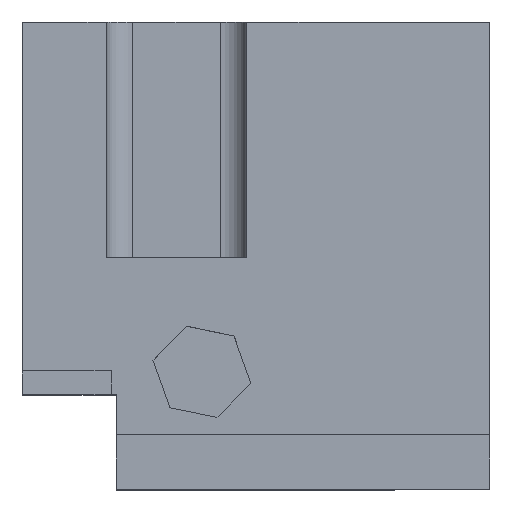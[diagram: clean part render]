
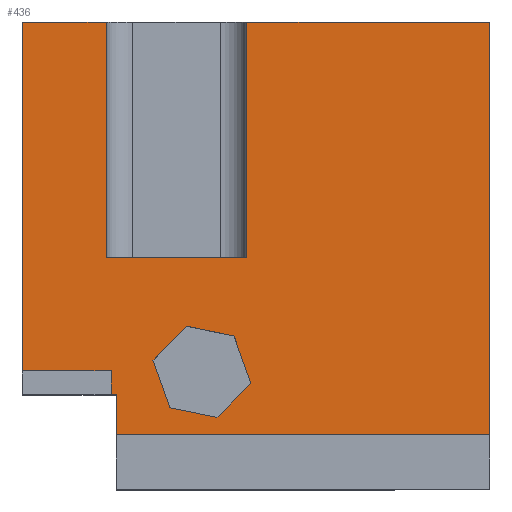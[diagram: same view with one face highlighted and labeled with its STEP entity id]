
A CAD part, top view. The second image highlights one B-rep face of the part: STEP entity #436.
In plain terms, the highlighted planar face has unit normal (0, 0, 1).
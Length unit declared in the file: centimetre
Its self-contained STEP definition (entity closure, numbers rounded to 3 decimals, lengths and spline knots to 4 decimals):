
#9 = CARTESIAN_POINT ( 'NONE',  ( 201.0474, 116.9071, 1000. ) ) ;
#10 = EDGE_CURVE ( 'NONE', #103, #352, #456, .T. ) ;
#48 = CARTESIAN_POINT ( 'NONE',  ( 0., 1000., 1000. ) ) ;
#50 = ORIENTED_EDGE ( 'NONE', *, *, #340, .T. ) ;
#54 = CARTESIAN_POINT ( 'NONE',  ( 352.073, 349.0226, 1000. ) ) ;
#60 = VECTOR ( 'NONE', #1245, 100. ) ;
#66 = CARTESIAN_POINT ( 'NONE',  ( 1000., 116.9071, 1000. ) ) ;
#68 = VERTEX_POINT ( 'NONE', #1150 ) ;
#84 = VECTOR ( 'NONE', #493, 100. ) ;
#88 = CARTESIAN_POINT ( 'NONE',  ( 480.3944, 496.8063, 1000. ) ) ;
#92 = DIRECTION ( 'NONE',  ( -1., 0., 0. ) ) ;
#103 = VERTEX_POINT ( 'NONE', #937 ) ;
#104 = VECTOR ( 'NONE', #407, 100. ) ;
#110 = EDGE_LOOP ( 'NONE', ( #440, #281, #247, #224, #135, #872 ) ) ;
#126 = DIRECTION ( 'NONE',  ( 0., 1., 0. ) ) ;
#127 = VERTEX_POINT ( 'NONE', #913 ) ;
#134 = CARTESIAN_POINT ( 'NONE',  ( 0., 496.8063, 1000. ) ) ;
#135 = ORIENTED_EDGE ( 'NONE', *, *, #381, .F. ) ;
#147 = CARTESIAN_POINT ( 'NONE',  ( 0., 202.8995, 1000. ) ) ;
#171 = AXIS2_PLACEMENT_3D ( 'NONE', #227, #221, #551 ) ;
#187 = CARTESIAN_POINT ( 'NONE',  ( 352.073, 349.0226, 1000. ) ) ;
#192 = VERTEX_POINT ( 'NONE', #285 ) ;
#201 = EDGE_CURVE ( 'NONE', #771, #1223, #1035, .T. ) ;
#202 = EDGE_CURVE ( 'NONE', #226, #103, #374, .T. ) ;
#220 = ORIENTED_EDGE ( 'NONE', *, *, #1423, .F. ) ;
#221 = DIRECTION ( 'NONE',  ( 0., 0., 1. ) ) ;
#224 = ORIENTED_EDGE ( 'NONE', *, *, #912, .F. ) ;
#226 = VERTEX_POINT ( 'NONE', #923 ) ;
#227 = CARTESIAN_POINT ( 'NONE',  ( 0., 0., 1000. ) ) ;
#239 = VERTEX_POINT ( 'NONE', #48 ) ;
#243 = VECTOR ( 'NONE', #580, 100. ) ;
#247 = ORIENTED_EDGE ( 'NONE', *, *, #202, .F. ) ;
#260 = DIRECTION ( 'NONE',  ( 0.979, -0.204, 0. ) ) ;
#277 = LINE ( 'NONE', #945, #587 ) ;
#281 = ORIENTED_EDGE ( 'NONE', *, *, #10, .F. ) ;
#285 = CARTESIAN_POINT ( 'NONE',  ( 0., 253.9919, 1000. ) ) ;
#286 = VECTOR ( 'NONE', #92, 100. ) ;
#293 = LINE ( 'NONE', #187, #1425 ) ;
#296 = ORIENTED_EDGE ( 'NONE', *, *, #1335, .F. ) ;
#299 = CARTESIAN_POINT ( 'NONE',  ( 489.0777, 226.3123, 1000. ) ) ;
#326 = FACE_OUTER_BOUND ( 'NONE', #704, .T. ) ;
#340 = EDGE_CURVE ( 'NONE', #239, #192, #613, .T. ) ;
#352 = VERTEX_POINT ( 'NONE', #828 ) ;
#359 = CARTESIAN_POINT ( 'NONE',  ( 279.4821, 276.4318, 1000. ) ) ;
#360 = EDGE_CURVE ( 'NONE', #1223, #1360, #621, .T. ) ;
#373 = EDGE_CURVE ( 'NONE', #659, #1360, #976, .T. ) ;
#374 = LINE ( 'NONE', #1362, #1181 ) ;
#381 = EDGE_CURVE ( 'NONE', #597, #927, #293, .T. ) ;
#387 = CARTESIAN_POINT ( 'NONE',  ( 0., 253.9919, 1000. ) ) ;
#399 = DIRECTION ( 'NONE',  ( 0., -1., 0. ) ) ;
#400 = VECTOR ( 'NONE', #571, 100. ) ;
#407 = DIRECTION ( 'NONE',  ( 0., -1., 0. ) ) ;
#414 = DIRECTION ( 'NONE',  ( -0.707, -0.707, 0. ) ) ;
#428 = CARTESIAN_POINT ( 'NONE',  ( 179.2842, 496.8063, 1000. ) ) ;
#436 = ADVANCED_FACE ( 'NONE', ( #326, #663 ), #545, .T. ) ;
#440 = ORIENTED_EDGE ( 'NONE', *, *, #1419, .F. ) ;
#445 = ORIENTED_EDGE ( 'NONE', *, *, #373, .F. ) ;
#456 = LINE ( 'NONE', #890, #400 ) ;
#468 = VERTEX_POINT ( 'NONE', #9 ) ;
#469 = DIRECTION ( 'NONE',  ( -1., 0., 0. ) ) ;
#470 = LINE ( 'NONE', #583, #60 ) ;
#487 = CARTESIAN_POINT ( 'NONE',  ( 1000., 1000., 1000. ) ) ;
#493 = DIRECTION ( 'NONE',  ( 0., 1., 0. ) ) ;
#514 = ORIENTED_EDGE ( 'NONE', *, *, #959, .T. ) ;
#519 = DIRECTION ( 'NONE',  ( -1., 0., 0. ) ) ;
#541 = VECTOR ( 'NONE', #1292, 100. ) ;
#545 = PLANE ( 'NONE',  #171 ) ;
#551 = DIRECTION ( 'NONE',  ( 1., 0., 0. ) ) ;
#571 = DIRECTION ( 'NONE',  ( 0.707, 0.707, 0. ) ) ;
#580 = DIRECTION ( 'NONE',  ( 1., 0., 0. ) ) ;
#583 = CARTESIAN_POINT ( 'NONE',  ( 279.4821, 276.4318, 1000. ) ) ;
#587 = VECTOR ( 'NONE', #725, 100. ) ;
#596 = EDGE_CURVE ( 'NONE', #774, #468, #1376, .T. ) ;
#597 = VERTEX_POINT ( 'NONE', #54 ) ;
#603 = LINE ( 'NONE', #387, #1367 ) ;
#613 = LINE ( 'NONE', #1182, #1141 ) ;
#621 = LINE ( 'NONE', #731, #286 ) ;
#637 = ORIENTED_EDGE ( 'NONE', *, *, #596, .T. ) ;
#640 = DIRECTION ( 'NONE',  ( 0., -1., 0. ) ) ;
#651 = CARTESIAN_POINT ( 'NONE',  ( 1000., 1000., 1000. ) ) ;
#659 = VERTEX_POINT ( 'NONE', #88 ) ;
#663 = FACE_BOUND ( 'NONE', #110, .T. ) ;
#704 = EDGE_LOOP ( 'NONE', ( #1107, #1129, #50, #1430, #840, #514, #637, #220, #996, #1053, #445, #296 ) ) ;
#725 = DIRECTION ( 'NONE',  ( -0.979, 0.204, 0. ) ) ;
#731 = CARTESIAN_POINT ( 'NONE',  ( 0., 1000., 1000. ) ) ;
#733 = DIRECTION ( 'NONE',  ( -0.336, 0.942, 0. ) ) ;
#771 = VERTEX_POINT ( 'NONE', #1192 ) ;
#774 = VERTEX_POINT ( 'NONE', #1306 ) ;
#775 = VECTOR ( 'NONE', #733, 100. ) ;
#780 = LINE ( 'NONE', #1240, #838 ) ;
#820 = EDGE_CURVE ( 'NONE', #127, #239, #885, .T. ) ;
#828 = CARTESIAN_POINT ( 'NONE',  ( 489.0777, 226.3123, 1000. ) ) ;
#837 = LINE ( 'NONE', #299, #775 ) ;
#838 = VECTOR ( 'NONE', #126, 100. ) ;
#840 = ORIENTED_EDGE ( 'NONE', *, *, #1297, .F. ) ;
#844 = CARTESIAN_POINT ( 'NONE',  ( 480.3944, 1000., 1000. ) ) ;
#872 = ORIENTED_EDGE ( 'NONE', *, *, #1395, .F. ) ;
#885 = LINE ( 'NONE', #1114, #1254 ) ;
#889 = VECTOR ( 'NONE', #1151, 100. ) ;
#890 = CARTESIAN_POINT ( 'NONE',  ( 416.4868, 153.7214, 1000. ) ) ;
#912 = EDGE_CURVE ( 'NONE', #927, #226, #470, .T. ) ;
#913 = CARTESIAN_POINT ( 'NONE',  ( 179.2842, 1000., 1000. ) ) ;
#923 = CARTESIAN_POINT ( 'NONE',  ( 315.8154, 174.6547, 1000. ) ) ;
#926 = CARTESIAN_POINT ( 'NONE',  ( 201.0474, 0., 1000. ) ) ;
#927 = VERTEX_POINT ( 'NONE', #359 ) ;
#937 = CARTESIAN_POINT ( 'NONE',  ( 416.4868, 153.7214, 1000. ) ) ;
#945 = CARTESIAN_POINT ( 'NONE',  ( 452.7444, 328.0893, 1000. ) ) ;
#959 = EDGE_CURVE ( 'NONE', #1384, #774, #1137, .T. ) ;
#976 = LINE ( 'NONE', #1426, #541 ) ;
#996 = ORIENTED_EDGE ( 'NONE', *, *, #201, .T. ) ;
#1020 = LINE ( 'NONE', #134, #1058 ) ;
#1035 = LINE ( 'NONE', #487, #84 ) ;
#1053 = ORIENTED_EDGE ( 'NONE', *, *, #360, .T. ) ;
#1058 = VECTOR ( 'NONE', #1128, 100. ) ;
#1107 = ORIENTED_EDGE ( 'NONE', *, *, #1236, .F. ) ;
#1113 = VERTEX_POINT ( 'NONE', #1173 ) ;
#1114 = CARTESIAN_POINT ( 'NONE',  ( 0., 1000., 1000. ) ) ;
#1128 = DIRECTION ( 'NONE',  ( 1., 0., 0. ) ) ;
#1129 = ORIENTED_EDGE ( 'NONE', *, *, #820, .T. ) ;
#1131 = VECTOR ( 'NONE', #640, 100. ) ;
#1137 = LINE ( 'NONE', #147, #243 ) ;
#1141 = VECTOR ( 'NONE', #399, 100. ) ;
#1150 = CARTESIAN_POINT ( 'NONE',  ( 452.7444, 328.0893, 1000. ) ) ;
#1151 = DIRECTION ( 'NONE',  ( -1., 0., 0. ) ) ;
#1173 = CARTESIAN_POINT ( 'NONE',  ( 179.2842, 496.8063, 1000. ) ) ;
#1175 = LINE ( 'NONE', #66, #889 ) ;
#1181 = VECTOR ( 'NONE', #260, 100. ) ;
#1182 = CARTESIAN_POINT ( 'NONE',  ( 0., 1000., 1000. ) ) ;
#1192 = CARTESIAN_POINT ( 'NONE',  ( 1000., 116.9071, 1000. ) ) ;
#1223 = VERTEX_POINT ( 'NONE', #651 ) ;
#1236 = EDGE_CURVE ( 'NONE', #127, #1113, #1431, .T. ) ;
#1240 = CARTESIAN_POINT ( 'NONE',  ( 189.9235, 126.3024, 1000. ) ) ;
#1245 = DIRECTION ( 'NONE',  ( 0.336, -0.942, 0. ) ) ;
#1254 = VECTOR ( 'NONE', #469, 100. ) ;
#1292 = DIRECTION ( 'NONE',  ( 0., 1., 0. ) ) ;
#1297 = EDGE_CURVE ( 'NONE', #1384, #1416, #780, .T. ) ;
#1306 = CARTESIAN_POINT ( 'NONE',  ( 201.0474, 202.8995, 1000. ) ) ;
#1335 = EDGE_CURVE ( 'NONE', #1113, #659, #1020, .T. ) ;
#1360 = VERTEX_POINT ( 'NONE', #844 ) ;
#1362 = CARTESIAN_POINT ( 'NONE',  ( 315.8154, 174.6547, 1000. ) ) ;
#1367 = VECTOR ( 'NONE', #519, 100. ) ;
#1376 = LINE ( 'NONE', #926, #104 ) ;
#1381 = EDGE_CURVE ( 'NONE', #1416, #192, #603, .T. ) ;
#1384 = VERTEX_POINT ( 'NONE', #1389 ) ;
#1389 = CARTESIAN_POINT ( 'NONE',  ( 189.9235, 202.8995, 1000. ) ) ;
#1395 = EDGE_CURVE ( 'NONE', #68, #597, #277, .T. ) ;
#1405 = CARTESIAN_POINT ( 'NONE',  ( 189.9235, 253.9919, 1000. ) ) ;
#1416 = VERTEX_POINT ( 'NONE', #1405 ) ;
#1419 = EDGE_CURVE ( 'NONE', #352, #68, #837, .T. ) ;
#1423 = EDGE_CURVE ( 'NONE', #771, #468, #1175, .T. ) ;
#1425 = VECTOR ( 'NONE', #414, 100. ) ;
#1426 = CARTESIAN_POINT ( 'NONE',  ( 480.3944, 496.8063, 1000. ) ) ;
#1430 = ORIENTED_EDGE ( 'NONE', *, *, #1381, .F. ) ;
#1431 = LINE ( 'NONE', #428, #1131 ) ;
